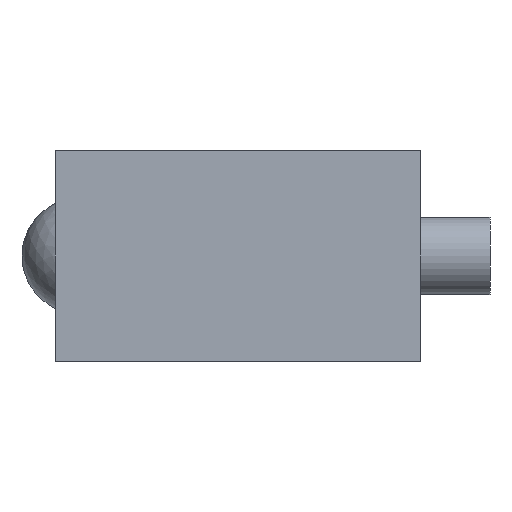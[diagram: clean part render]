
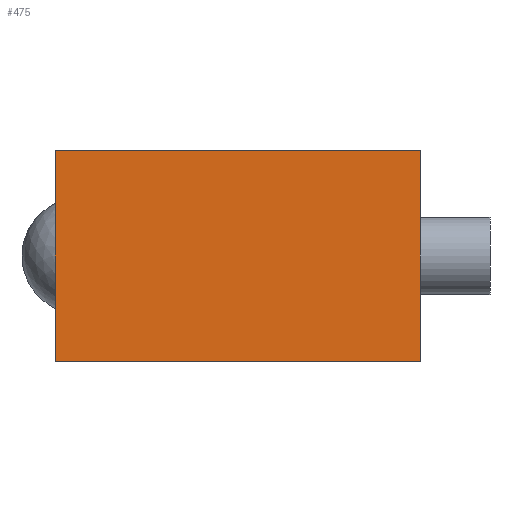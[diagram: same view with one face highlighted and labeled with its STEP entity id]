
A CAD part, left-side view. The second image highlights one B-rep face of the part: STEP entity #475.
In plain terms, the highlighted planar face has unit normal (-1, 0, 0).
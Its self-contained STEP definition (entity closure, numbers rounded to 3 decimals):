
#21=LINE('',#793,#37);
#27=LINE('',#808,#43);
#31=LINE('',#820,#47);
#33=LINE('',#823,#49);
#37=VECTOR('',#672,10.);
#43=VECTOR('',#682,10.);
#47=VECTOR('',#698,10.);
#49=VECTOR('',#702,10.);
#86=PLANE('',#559);
#120=FACE_OUTER_BOUND('',#178,.T.);
#178=EDGE_LOOP('',(#375,#376,#377,#378));
#238=VERTEX_POINT('',#791);
#239=VERTEX_POINT('',#792);
#245=VERTEX_POINT('',#805);
#246=VERTEX_POINT('',#807);
#278=EDGE_CURVE('',#238,#239,#21,.T.);
#285=EDGE_CURVE('',#245,#246,#27,.T.);
#291=EDGE_CURVE('',#246,#238,#31,.T.);
#293=EDGE_CURVE('',#239,#245,#33,.T.);
#375=ORIENTED_EDGE('',*,*,#285,.F.);
#376=ORIENTED_EDGE('',*,*,#293,.F.);
#377=ORIENTED_EDGE('',*,*,#278,.F.);
#378=ORIENTED_EDGE('',*,*,#291,.F.);
#475=ADVANCED_FACE('',(#120),#86,.T.);
#559=AXIS2_PLACEMENT_3D('',#822,#700,#701);
#672=DIRECTION('',(0.,0.,1.));
#682=DIRECTION('',(0.,0.,-1.));
#698=DIRECTION('',(0.,1.,0.));
#700=DIRECTION('center_axis',(-1.,0.,0.));
#701=DIRECTION('ref_axis',(0.,-1.,0.));
#702=DIRECTION('',(0.,-1.,0.));
#791=CARTESIAN_POINT('',(-315.,18.9,-10.9));
#792=CARTESIAN_POINT('',(-315.,18.9,10.9));
#793=CARTESIAN_POINT('',(-315.,18.9,0.));
#805=CARTESIAN_POINT('',(-315.,-18.9,10.9));
#807=CARTESIAN_POINT('',(-315.,-18.9,-10.9));
#808=CARTESIAN_POINT('',(-315.,-18.9,0.));
#820=CARTESIAN_POINT('',(-315.,18.9,-10.9));
#822=CARTESIAN_POINT('Origin',(-315.,18.9,0.));
#823=CARTESIAN_POINT('',(-315.,18.9,10.9));
